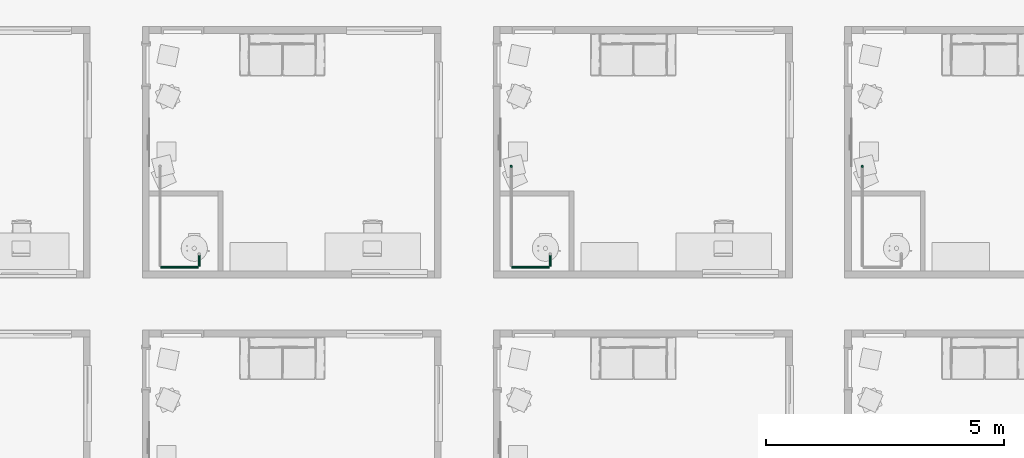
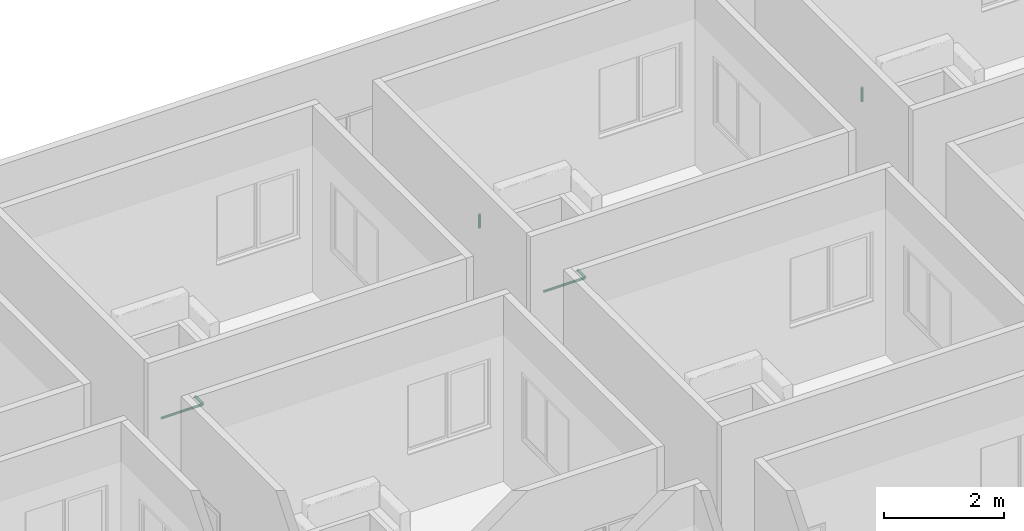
# One storey, part 51 of 72: 6 pipe segments.
"""IFC4 building model written with IfcOpenShell, lengths in centimetres."""

from ifc_helpers import new_model, entity, si_unit, converted_unit, derived_unit, direction, frame, origin, place, context, subcontext, project, spatial, arc, indexed_curve, outline, extrude, type_object, element, save


model = new_model("IFC4")

# Units and contexts
model_context = context("Model", 3, precision=0.001, world=origin(), true_north=direction((6.123233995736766e-17, 1.0)))
body_context = subcontext(model_context, "Body", "Model", "MODEL_VIEW")
ifc_project = project(units=[si_unit("LENGTHUNIT", "METRE", prefix="CENTI"), si_unit("AREAUNIT", "SQUARE_METRE"), si_unit("VOLUMEUNIT", "CUBIC_METRE"), derived_unit("THERMALTRANSMITTANCEUNIT", [(si_unit("MASSUNIT", "GRAM", prefix="KILO"), 1), (si_unit("THERMODYNAMICTEMPERATUREUNIT", "KELVIN"), -1), (si_unit("TIMEUNIT", "SECOND"), -3)]), converted_unit("PLANEANGLEUNIT", "DEGREE", entity("IfcPlaneAngleMeasure", 0.017453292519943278), si_unit("PLANEANGLEUNIT", "RADIAN"), dimensions=[0, 0, 0, 0, 0, 0, 0]), derived_unit("MASSDENSITYUNIT", [(si_unit("MASSUNIT", "GRAM", prefix="KILO"), 1), (si_unit("LENGTHUNIT", "METRE"), -3)]), derived_unit("VAPORPERMEABILITYUNIT", [(si_unit("LENGTHUNIT", "METRE"), -1), (si_unit("TIMEUNIT", "SECOND"), 1)]), derived_unit("USERDEFINED", [(si_unit("MASSUNIT", "GRAM", prefix="KILO"), 1), (si_unit("TIMEUNIT", "SECOND"), -3), (si_unit("LENGTHUNIT", "METRE"), 3), (si_unit("ELECTRICCURRENTUNIT", "AMPERE"), -2)]), derived_unit("SPECIFICHEATCAPACITYUNIT", [(si_unit("THERMODYNAMICTEMPERATUREUNIT", "KELVIN"), -1), (si_unit("LENGTHUNIT", "METRE"), 2), (si_unit("TIMEUNIT", "SECOND"), -2)]), derived_unit("THERMALCONDUCTANCEUNIT", [(si_unit("MASSUNIT", "GRAM", prefix="KILO"), 1), (si_unit("THERMODYNAMICTEMPERATUREUNIT", "KELVIN"), -1), (si_unit("TIMEUNIT", "SECOND"), -3), (si_unit("LENGTHUNIT", "METRE"), 1)]), si_unit("PRESSUREUNIT", "PASCAL"), derived_unit("MODULUSOFELASTICITYUNIT", [(si_unit("MASSUNIT", "GRAM", prefix="KILO"), 1), (si_unit("LENGTHUNIT", "METRE"), -1), (si_unit("TIMEUNIT", "SECOND"), -2)]), derived_unit("THERMALEXPANSIONCOEFFICIENTUNIT", [(si_unit("THERMODYNAMICTEMPERATUREUNIT", "KELVIN"), -1)])], contexts=[model_context])

# Site, building, storey
site_placement = place(None, origin())
site = spatial("IfcSite", under=ifc_project, at=site_placement, Name="Default", CompositionType="ELEMENT")
building_placement = place(site_placement, origin())
building = spatial("IfcBuilding", under=site, at=building_placement, Name="IDS Escape Game Building", CompositionType="ELEMENT")
storey_placement = place(building_placement, frame((0.0, 0.0, 800.0)))
storey = spatial("IfcBuildingStorey", under=building, at=storey_placement, Name="02_Second Floor", CompositionType="ELEMENT", Elevation=800.0)

# Pipe segments
pipe_segment_type = type_object("IfcPipeSegmentType", Name="Pipe Types:Piping Aluminum", PredefinedType="NOTDEFINED")
pipe_segment_1_placement = place(storey_placement, origin())
element("IfcPipeSegment", 1, at=pipe_segment_1_placement, inside=storey, type_object=pipe_segment_type, Name="Pipe Types:Piping Aluminum", ObjectType="Pipe Types:Piping Aluminum", PredefinedType="NOTDEFINED", context=body_context, shape_type="SweptSolid", body=[
    extrude(outline(indexed_curve([(2.412999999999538, -2.165734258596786e-13), (1.7062486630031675, 1.7062486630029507), (4.331468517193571e-13, 2.4130000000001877), (-1.7062486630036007, 1.7062486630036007), (-2.4130000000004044, -2.165734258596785e-13), (-1.7062486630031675, -1.706248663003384), (4.3314685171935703e-13, -2.4129999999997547), (1.7062486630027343, -1.7062486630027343)], segments=[arc(1, 2, 3), arc(3, 4, 5), arc(5, 6, 7), arc(7, 8, 1)], self_intersect=False)), frame((1507.1467168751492, 2573.2648279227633, 242.0), z_axis=(1.0, 0.0, 0.0), x_axis=(0.0, 1.0, 0.0)), (0.0, 0.0, 1.0), 79.90328312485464),
])
pipe_segment_2_placement = place(storey_placement, origin())
element("IfcPipeSegment", 2, at=pipe_segment_2_placement, inside=storey, type_object=pipe_segment_type, Name="Pipe Types:Piping Aluminum", ObjectType="Pipe Types:Piping Aluminum", PredefinedType="NOTDEFINED", context=body_context, shape_type="SweptSolid", body=[
    extrude(outline(indexed_curve([(2.4129999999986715, 0.0), (1.7062486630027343, 1.706248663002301), (1.2994405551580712e-12, 2.412999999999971), (-1.7062486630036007, 1.7062486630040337), (-2.413000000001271, 0.0), (-1.7062486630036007, -1.7062486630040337), (1.2994405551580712e-12, -2.412999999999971), (1.7062486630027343, -1.706248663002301)], segments=[arc(1, 2, 3), arc(3, 4, 5), arc(5, 6, 7), arc(7, 8, 1)], self_intersect=False)), frame((1588.1500000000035, 2574.364827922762, 242.0), z_axis=(0.0, 1.0, 0.0), x_axis=(-1.0, 0.0, 0.0)), (0.0, 0.0, 1.0), 25.43517207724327),
])
pipe_segment_3_placement = place(storey_placement, origin())
element("IfcPipeSegment", 3, at=pipe_segment_3_placement, inside=storey, type_object=pipe_segment_type, Name="Pipe Types:Piping Aluminum", ObjectType="Pipe Types:Piping Aluminum", PredefinedType="NOTDEFINED", context=body_context, shape_type="SweptSolid", body=[
    extrude(outline(indexed_curve([(2.412999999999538, -2.165734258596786e-13), (1.7062486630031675, 1.7062486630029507), (4.331468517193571e-13, 2.4130000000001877), (-1.7062486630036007, 1.7062486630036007), (-2.4130000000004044, -2.165734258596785e-13), (-1.7062486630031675, -1.706248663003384), (4.3314685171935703e-13, -2.4129999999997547), (1.7062486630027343, -1.7062486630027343)], segments=[arc(1, 2, 3), arc(3, 4, 5), arc(5, 6, 7), arc(7, 8, 1)], self_intersect=False)), frame((2245.1467168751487, 2573.2648279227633, 242.0), z_axis=(1.0, 0.0, 0.0), x_axis=(0.0, 1.0, 0.0)), (0.0, 0.0, 1.0), 79.90328312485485),
])
pipe_segment_4_placement = place(storey_placement, origin())
element("IfcPipeSegment", 4, at=pipe_segment_4_placement, inside=storey, type_object=pipe_segment_type, Name="Pipe Types:Piping Aluminum", ObjectType="Pipe Types:Piping Aluminum", PredefinedType="NOTDEFINED", context=body_context, shape_type="SweptSolid", body=[
    extrude(outline(indexed_curve([(2.4129999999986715, 0.0), (1.7062486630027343, 1.7062486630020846), (1.7325874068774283e-12, 2.412999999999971), (-1.7062486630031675, 1.7062486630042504), (-2.413000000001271, 0.0), (-1.7062486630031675, -1.7062486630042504), (1.7325874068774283e-12, -2.412999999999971), (1.7062486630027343, -1.7062486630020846)], segments=[arc(1, 2, 3), arc(3, 4, 5), arc(5, 6, 7), arc(7, 8, 1)], self_intersect=False)), frame((2326.1500000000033, 2574.364827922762, 242.0), z_axis=(0.0, 1.0, 0.0), x_axis=(-1.0, 0.0, 0.0)), (0.0, 0.0, 1.0), 25.43517207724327),
])
pipe_segment_5_placement = place(storey_placement, origin())
element("IfcPipeSegment", 5, at=pipe_segment_5_placement, inside=storey, type_object=pipe_segment_type, Name="Pipe Types:Piping Aluminum", ObjectType="Pipe Types:Piping Aluminum", PredefinedType="NOTDEFINED", context=body_context, shape_type="SweptSolid", body=[
    extrude(outline(indexed_curve([(2.412999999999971, -4.331468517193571e-13), (1.7062486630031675, 1.7062486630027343), (0.0, 2.412999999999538), (-1.7062486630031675, 1.7062486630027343), (-2.412999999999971, -4.331468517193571e-13), (-1.7062486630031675, -1.7062486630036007), (0.0, -2.4130000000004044), (1.7062486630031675, -1.7062486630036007)], segments=[arc(1, 2, 3), arc(3, 4, 5), arc(5, 6, 7), arc(7, 8, 1)], self_intersect=False)), frame((2244.046716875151, 2785.2648279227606, 244.09999999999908), z_axis=(0.0, 0.0, 1.0), x_axis=(-1.0, 0.0, 0.0)), (0.0, 0.0, 1.0), 27.90000000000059),
])
pipe_segment_6_placement = place(storey_placement, origin())
element("IfcPipeSegment", 6, at=pipe_segment_6_placement, inside=storey, type_object=pipe_segment_type, Name="Pipe Types:Piping Aluminum", ObjectType="Pipe Types:Piping Aluminum", PredefinedType="NOTDEFINED", context=body_context, shape_type="SweptSolid", body=[
    extrude(outline(indexed_curve([(2.412999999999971, -4.331468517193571e-13), (1.7062486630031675, 1.7062486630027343), (0.0, 2.412999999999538), (-1.7062486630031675, 1.7062486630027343), (-2.412999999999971, -4.331468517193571e-13), (-1.7062486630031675, -1.7062486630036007), (0.0, -2.4130000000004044), (1.7062486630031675, -1.7062486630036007)], segments=[arc(1, 2, 3), arc(3, 4, 5), arc(5, 6, 7), arc(7, 8, 1)], self_intersect=False)), frame((2982.0467168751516, 2785.2648279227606, 244.09999999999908), z_axis=(0.0, 0.0, 1.0), x_axis=(-1.0, 0.0, 0.0)), (0.0, 0.0, 1.0), 27.90000000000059),
])

save(model, "model.ifc")
